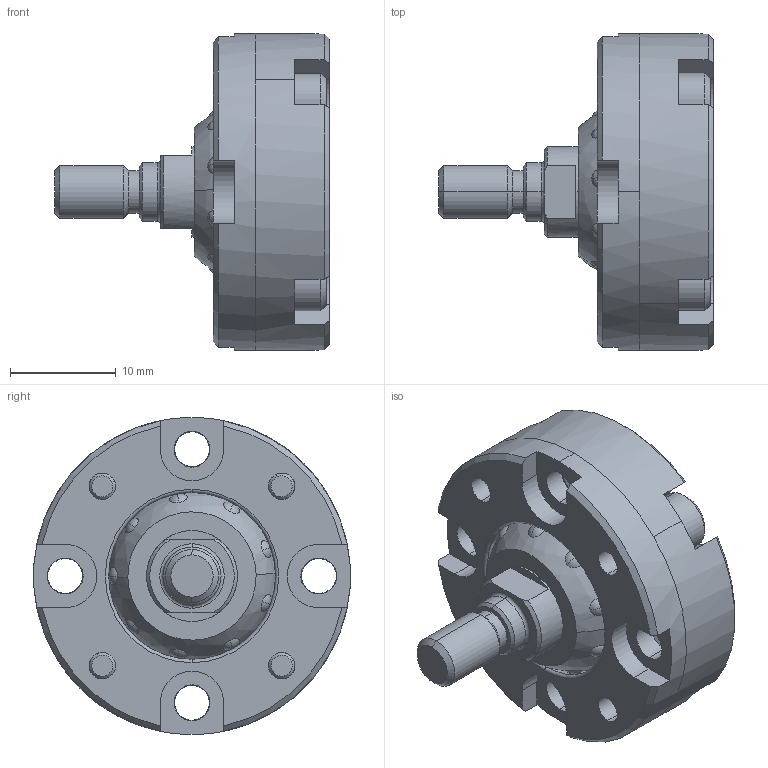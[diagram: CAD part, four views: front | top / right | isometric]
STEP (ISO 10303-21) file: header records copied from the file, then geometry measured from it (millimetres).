
FILE_DESCRIPTION (( 'STEP AP214' ), '1' );
FILE_NAME ('SRJS008C_HOUSING-B tap.STEP', '2025-07-15T07:11:25', ( '' ), ( '' ), 'SwSTEP 2.0', 'SolidWorks 2023', '' );
FILE_SCHEMA (( 'AUTOMOTIVE_DESIGN' ));
Length unit declared in the file: millimetre
Products named in the file (1): SRJS008C_HOUSING-B tap
Bounding box: 26 x 29.95 x 30 mm (x, y, z)
Volume: 7341.7 mm3; surface area: 4790.4 mm2
Topology: 2 solids, 2 shells, 263 faces, 710 edges, 466 vertices
Faces by surface type: cylinder 138, plane 53, cone 32, sphere 24, bspline 12, torus 4
Entity records: 14024 total; most frequent: CARTESIAN_POINT 7868, ORIENTED_EDGE 1394, DIRECTION 1222, EDGE_CURVE 697, AXIS2_PLACEMENT_3D 501, VERTEX_POINT 459, EDGE_LOOP 294, FACE_OUTER_BOUND 263
